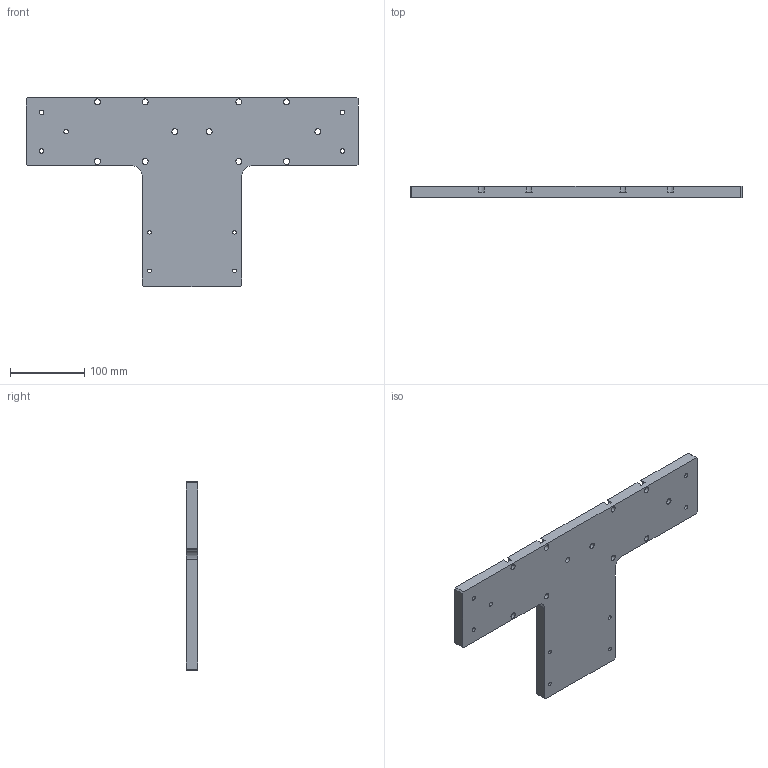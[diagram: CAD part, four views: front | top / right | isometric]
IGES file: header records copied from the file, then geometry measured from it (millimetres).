
Start section:  PTC IGES file: n100-n100l-ft.igs
Global section: file name: n100-n100l-ft.igs; native system: Pro/ENGINEER by Parametric Technology Corporation; preprocessor: 2008230; author: Owner; organization: Unknown; date: 20121212.130153; units: millimetre
Bounding box: 446 x 15 x 254 mm (x, y, z)
Surface area: 152808.1 mm2 (no closed solid volume)
Topology: 0 solids, 0 shells, 100 faces, 528 edges, 528 vertices
Faces by surface type: revolution 68, bspline 32
